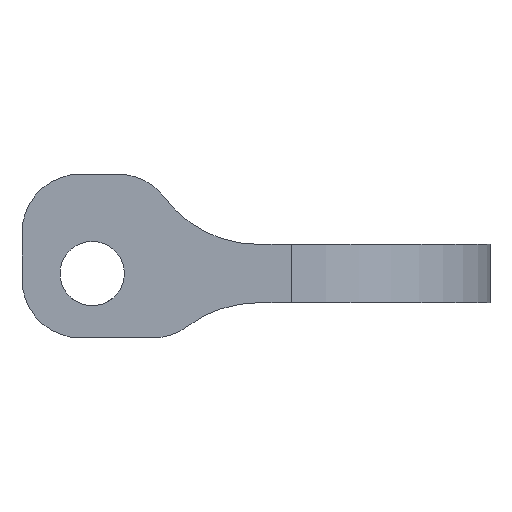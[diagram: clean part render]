
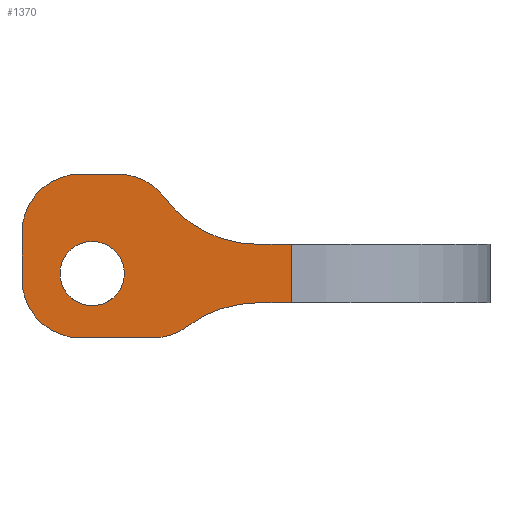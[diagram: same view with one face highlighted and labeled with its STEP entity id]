
A CAD part, left-side view. The second image highlights one B-rep face of the part: STEP entity #1370.
In plain terms, the highlighted planar face has unit normal (-1, 0, 0).
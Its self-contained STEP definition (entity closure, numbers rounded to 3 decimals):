
#3 = ORIENTED_EDGE ( 'NONE', *, *, #618, .T. ) ;
#4 = DIRECTION ( 'NONE',  ( -1., 0., 0. ) ) ;
#7 = CIRCLE ( 'NONE', #937, 10. ) ;
#25 = CARTESIAN_POINT ( 'NONE',  ( -30., 0., 8.5 ) ) ;
#40 = EDGE_CURVE ( 'NONE', #1044, #978, #698, .T. ) ;
#53 = DIRECTION ( 'NONE',  ( 0., 0., -1. ) ) ;
#55 = CARTESIAN_POINT ( 'NONE',  ( -30., -0.165, 12.5 ) ) ;
#154 = CARTESIAN_POINT ( 'NONE',  ( -30., 8.835, -0.5 ) ) ;
#166 = ORIENTED_EDGE ( 'NONE', *, *, #947, .T. ) ;
#189 = CIRCLE ( 'NONE', #233, 2.75 ) ;
#216 = CARTESIAN_POINT ( 'NONE',  ( -30., -0.165, -12.5 ) ) ;
#228 = CARTESIAN_POINT ( 'NONE',  ( -30., 14., -2.75 ) ) ;
#229 = VERTEX_POINT ( 'NONE', #868 ) ;
#233 = AXIS2_PLACEMENT_3D ( 'NONE', #1497, #869, #639 ) ;
#253 = CIRCLE ( 'NONE', #1389, 5. ) ;
#278 = DIRECTION ( 'NONE',  ( -1., 0., 0. ) ) ;
#291 = ORIENTED_EDGE ( 'NONE', *, *, #603, .T. ) ;
#301 = VERTEX_POINT ( 'NONE', #1151 ) ;
#324 = CARTESIAN_POINT ( 'NONE',  ( -30., -3., 2.5 ) ) ;
#341 = CARTESIAN_POINT ( 'NONE',  ( -30., 8.835, -5.5 ) ) ;
#349 = CARTESIAN_POINT ( 'NONE',  ( -30., 20., 3.5 ) ) ;
#358 = CARTESIAN_POINT ( 'NONE',  ( -30., 15., 8.5 ) ) ;
#362 = AXIS2_PLACEMENT_3D ( 'NONE', #1049, #1153, #667 ) ;
#366 = CARTESIAN_POINT ( 'NONE',  ( -30., 14., 2.75 ) ) ;
#390 = EDGE_LOOP ( 'NONE', ( #1245, #775 ) ) ;
#398 = DIRECTION ( 'NONE',  ( 0., 0., -1. ) ) ;
#409 = FACE_BOUND ( 'NONE', #390, .T. ) ;
#437 = DIRECTION ( 'NONE',  ( -1., 0., 0. ) ) ;
#443 = DIRECTION ( 'NONE',  ( 1., 0., 0. ) ) ;
#446 = AXIS2_PLACEMENT_3D ( 'NONE', #25, #443, #1408 ) ;
#453 = VERTEX_POINT ( 'NONE', #672 ) ;
#516 = CARTESIAN_POINT ( 'NONE',  ( -30., 5.835, -4.5 ) ) ;
#558 = LINE ( 'NONE', #1160, #945 ) ;
#562 = LINE ( 'NONE', #1573, #1348 ) ;
#568 = CARTESIAN_POINT ( 'NONE',  ( -30., 15., -5.5 ) ) ;
#589 = CARTESIAN_POINT ( 'NONE',  ( -30., 7.835, 6.5 ) ) ;
#593 = VERTEX_POINT ( 'NONE', #341 ) ;
#603 = EDGE_CURVE ( 'NONE', #301, #987, #1344, .T. ) ;
#605 = AXIS2_PLACEMENT_3D ( 'NONE', #216, #1520, #1149 ) ;
#610 = ORIENTED_EDGE ( 'NONE', *, *, #860, .F. ) ;
#618 = EDGE_CURVE ( 'NONE', #708, #301, #1472, .T. ) ;
#633 = DIRECTION ( 'NONE',  ( 0., 0., 1. ) ) ;
#639 = DIRECTION ( 'NONE',  ( 0., 0., -1. ) ) ;
#660 = FACE_OUTER_BOUND ( 'NONE', #943, .T. ) ;
#663 = DIRECTION ( 'NONE',  ( 0., 0., -1. ) ) ;
#667 = DIRECTION ( 'NONE',  ( 0., 0., -1. ) ) ;
#671 = ORIENTED_EDGE ( 'NONE', *, *, #812, .T. ) ;
#672 = CARTESIAN_POINT ( 'NONE',  ( -30., 11.835, 8.5 ) ) ;
#678 = EDGE_CURVE ( 'NONE', #593, #708, #253, .T. ) ;
#698 = CIRCLE ( 'NONE', #1183, 5. ) ;
#708 = VERTEX_POINT ( 'NONE', #516 ) ;
#717 = CARTESIAN_POINT ( 'NONE',  ( -30., -49., -2.5 ) ) ;
#743 = DIRECTION ( 'NONE',  ( 0., 0., -1. ) ) ;
#749 = ORIENTED_EDGE ( 'NONE', *, *, #40, .T. ) ;
#757 = LINE ( 'NONE', #1642, #1445 ) ;
#758 = ORIENTED_EDGE ( 'NONE', *, *, #1173, .T. ) ;
#775 = ORIENTED_EDGE ( 'NONE', *, *, #1625, .T. ) ;
#786 = PLANE ( 'NONE',  #446 ) ;
#797 = ORIENTED_EDGE ( 'NONE', *, *, #1325, .T. ) ;
#812 = EDGE_CURVE ( 'NONE', #927, #1501, #7, .T. ) ;
#838 = DIRECTION ( 'NONE',  ( -1., 0., 0. ) ) ;
#860 = EDGE_CURVE ( 'NONE', #1044, #453, #562, .T. ) ;
#863 = CARTESIAN_POINT ( 'NONE',  ( -30., -0.165, 2.5 ) ) ;
#866 = CIRCLE ( 'NONE', #362, 2.75 ) ;
#868 = CARTESIAN_POINT ( 'NONE',  ( -30., 20., -0.5 ) ) ;
#869 = DIRECTION ( 'NONE',  ( 1., 0., 0. ) ) ;
#886 = DIRECTION ( 'NONE',  ( 0., -1., 0. ) ) ;
#927 = VERTEX_POINT ( 'NONE', #863 ) ;
#937 = AXIS2_PLACEMENT_3D ( 'NONE', #55, #1422, #1411 ) ;
#943 = EDGE_LOOP ( 'NONE', ( #671, #1228, #610, #749, #950, #166, #970, #1315, #3, #291, #758, #797 ) ) ;
#945 = VECTOR ( 'NONE', #1550, 1000. ) ;
#947 = EDGE_CURVE ( 'NONE', #229, #1359, #1312, .T. ) ;
#950 = ORIENTED_EDGE ( 'NONE', *, *, #1067, .T. ) ;
#955 = CARTESIAN_POINT ( 'NONE',  ( -30., 20., 8.5 ) ) ;
#962 = CARTESIAN_POINT ( 'NONE',  ( -30., -3., -2.5 ) ) ;
#970 = ORIENTED_EDGE ( 'NONE', *, *, #1087, .T. ) ;
#971 = CARTESIAN_POINT ( 'NONE',  ( -30., 15., -0.5 ) ) ;
#978 = VERTEX_POINT ( 'NONE', #349 ) ;
#987 = VERTEX_POINT ( 'NONE', #962 ) ;
#995 = LINE ( 'NONE', #1393, #1620 ) ;
#1044 = VERTEX_POINT ( 'NONE', #358 ) ;
#1048 = CARTESIAN_POINT ( 'NONE',  ( -30., 15., 3.5 ) ) ;
#1049 = CARTESIAN_POINT ( 'NONE',  ( -30., 14., 0. ) ) ;
#1055 = VERTEX_POINT ( 'NONE', #228 ) ;
#1067 = EDGE_CURVE ( 'NONE', #978, #229, #1605, .T. ) ;
#1069 = CARTESIAN_POINT ( 'NONE',  ( -30., 11.835, 3.5 ) ) ;
#1074 = CIRCLE ( 'NONE', #1356, 5. ) ;
#1082 = VERTEX_POINT ( 'NONE', #324 ) ;
#1087 = EDGE_CURVE ( 'NONE', #1359, #593, #995, .T. ) ;
#1108 = AXIS2_PLACEMENT_3D ( 'NONE', #971, #838, #1207 ) ;
#1149 = DIRECTION ( 'NONE',  ( 0., 0., -1. ) ) ;
#1151 = CARTESIAN_POINT ( 'NONE',  ( -30., -0.165, -2.5 ) ) ;
#1153 = DIRECTION ( 'NONE',  ( 1., 0., 0. ) ) ;
#1160 = CARTESIAN_POINT ( 'NONE',  ( -30., -49., 2.5 ) ) ;
#1173 = EDGE_CURVE ( 'NONE', #987, #1082, #757, .T. ) ;
#1183 = AXIS2_PLACEMENT_3D ( 'NONE', #1048, #437, #398 ) ;
#1207 = DIRECTION ( 'NONE',  ( 0., 0., -1. ) ) ;
#1218 = DIRECTION ( 'NONE',  ( 0., -1., 0. ) ) ;
#1228 = ORIENTED_EDGE ( 'NONE', *, *, #1345, .T. ) ;
#1245 = ORIENTED_EDGE ( 'NONE', *, *, #1394, .T. ) ;
#1249 = VECTOR ( 'NONE', #1218, 1000. ) ;
#1254 = VERTEX_POINT ( 'NONE', #366 ) ;
#1282 = DIRECTION ( 'NONE',  ( 0., -1., 0. ) ) ;
#1312 = CIRCLE ( 'NONE', #1108, 5. ) ;
#1315 = ORIENTED_EDGE ( 'NONE', *, *, #678, .T. ) ;
#1325 = EDGE_CURVE ( 'NONE', #1082, #927, #558, .T. ) ;
#1344 = LINE ( 'NONE', #717, #1249 ) ;
#1345 = EDGE_CURVE ( 'NONE', #1501, #453, #1074, .T. ) ;
#1348 = VECTOR ( 'NONE', #1282, 1000. ) ;
#1356 = AXIS2_PLACEMENT_3D ( 'NONE', #1069, #278, #53 ) ;
#1359 = VERTEX_POINT ( 'NONE', #568 ) ;
#1370 = ADVANCED_FACE ( 'NONE', ( #409, #660 ), #786, .F. ) ;
#1389 = AXIS2_PLACEMENT_3D ( 'NONE', #154, #4, #663 ) ;
#1393 = CARTESIAN_POINT ( 'NONE',  ( -30., 0., -5.5 ) ) ;
#1394 = EDGE_CURVE ( 'NONE', #1055, #1254, #866, .T. ) ;
#1408 = DIRECTION ( 'NONE',  ( 0., 0., -1. ) ) ;
#1411 = DIRECTION ( 'NONE',  ( 0., 0., -1. ) ) ;
#1422 = DIRECTION ( 'NONE',  ( 1., 0., 0. ) ) ;
#1445 = VECTOR ( 'NONE', #633, 1000. ) ;
#1472 = CIRCLE ( 'NONE', #605, 10. ) ;
#1497 = CARTESIAN_POINT ( 'NONE',  ( -30., 14., 0. ) ) ;
#1501 = VERTEX_POINT ( 'NONE', #589 ) ;
#1520 = DIRECTION ( 'NONE',  ( 1., 0., 0. ) ) ;
#1537 = VECTOR ( 'NONE', #743, 1000. ) ;
#1550 = DIRECTION ( 'NONE',  ( 0., 1., 0. ) ) ;
#1573 = CARTESIAN_POINT ( 'NONE',  ( -30., 0., 8.5 ) ) ;
#1605 = LINE ( 'NONE', #955, #1537 ) ;
#1620 = VECTOR ( 'NONE', #886, 1000. ) ;
#1625 = EDGE_CURVE ( 'NONE', #1254, #1055, #189, .T. ) ;
#1642 = CARTESIAN_POINT ( 'NONE',  ( -30., -3., 8.5 ) ) ;
